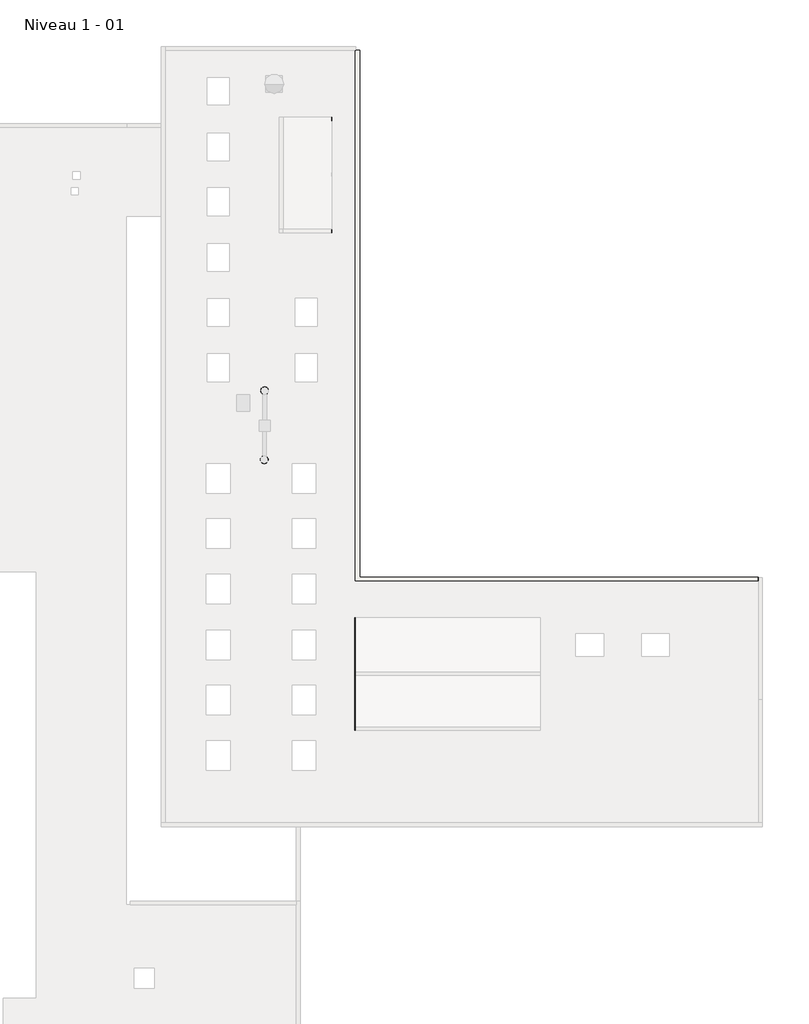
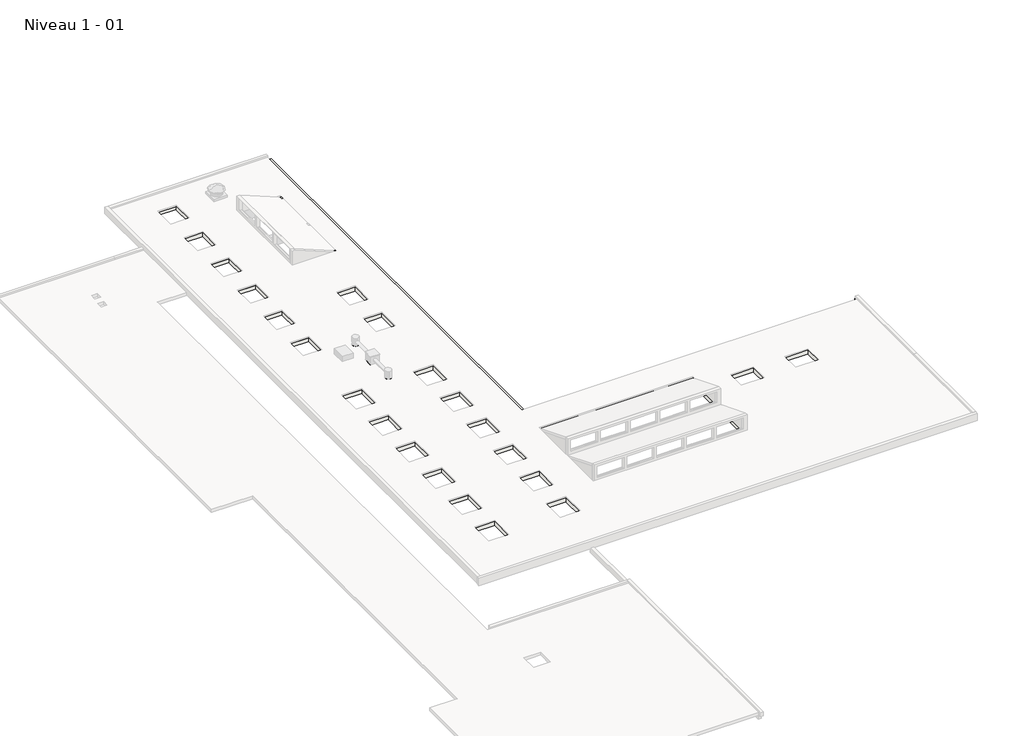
# One storey, part 2 of 3: 1 slab.
"""IFC4 building model written with IfcOpenShell, lengths in millimetres."""

from ifc_helpers import new_model, si_unit, frame, origin, place, context, project, spatial, polyline, circle_curve, element, save
from ifc_brep_helpers import plane_surface, revolved_surface, advanced_brep

model = new_model("IFC4")

# Units and contexts
model_context = context("Model", 3, world=origin())
ifc_project = project(units=[si_unit("LENGTHUNIT", "METRE", prefix="MILLI")], contexts=[model_context])

# Site, building, storey
site = spatial("IfcSite", under=ifc_project)
building = spatial("IfcBuilding", under=site)
storey = spatial("IfcBuildingStorey", under=building, Name="Niveau 1 - 01", Elevation=3953.3082742)

# Slab
placement = place(None, origin())
element("IfcSlab", 1, ObjectType="Dalle béton 250mm", at=placement, inside=storey, context=model_context, shape_type="AdvancedBrep", body=[
    advanced_brep(
    [(-3952.669714, -34309.054307, 3703.3082742), (-36143.9891745, -34309.054307, 3703.3082742), (-36143.9891745, 7622.6789506, 3703.3082742), (-25803.9891728, 7622.6789506, 3703.3082742), (-25593.9891731, 7622.6789506, 3703.3082742), (-25593.9891731, -1968.7412456, 3703.3082742), (-25593.9891731, -20511.25307, 3703.3082742), (-25593.9891731, -20966.25307, 3703.3082742), (-6831.0863322, -20966.25307, 3703.3082742), (-3952.669714, -20966.25307, 3703.3082742), (-33869.0462334, -10357.822974, 3703.3082742), (-32669.0462334, -10357.822974, 3703.3082742), (-32669.0462334, -8857.822974, 3703.3082742), (-33869.0462334, -8857.822974, 3703.3082742), (-33869.0462334, -5852.822974, 3703.3082742), (-33869.0462334, -7352.822974, 3703.3082742), (-32669.0462334, -7352.822974, 3703.3082742), (-32669.0462334, -5852.822974, 3703.3082742), (-32669.0462334, -2876.8912553, 3703.3082742), (-33869.0462334, -2876.8912553, 3703.3082742), (-33869.0462334, -4376.8912553, 3703.3082742), (-32669.0462334, -4376.8912553, 3703.3082742), (-33869.0462334, -1347.3571147, 3703.3082742), (-32669.0462334, -1347.3571147, 3703.3082742), (-32669.0462334, 152.6428853, 3703.3082742), (-33869.0462334, 152.6428853, 3703.3082742), (-33869.0462334, 1622.177026, 3703.3082742), (-32669.0462334, 1622.177026, 3703.3082742), (-32669.0462334, 3122.177026, 3703.3082742), (-33869.0462334, 3122.177026, 3703.3082742), (-33869.0462334, 4671.7111666, 3703.3082742), (-32669.0462334, 4671.7111666, 3703.3082742), (-32669.0462334, 6171.7111666, 3703.3082742), (-33869.0462334, 6171.7111666, 3703.3082742), (-8792.5797272, -24053.822974, 3703.3082742), (-10292.5797272, -24053.822974, 3703.3082742), (-10292.5797272, -25253.822974, 3703.3082742), (-8792.5797272, -25253.822974, 3703.3082742), (-12351.5513349, -24053.822974, 3703.3082742), (-13851.5513349, -24053.822974, 3703.3082742), (-13851.5513349, -25253.822974, 3703.3082742), (-12351.5513349, -25253.822974, 3703.3082742), (-33919.0462334, -16407.822974, 3703.3082742), (-32619.0462334, -16407.822974, 3703.3082742), (-32619.0462334, -14807.822974, 3703.3082742), (-33919.0462334, -14807.822974, 3703.3082742), (-33919.0462334, -19407.822974, 3703.3082742), (-32619.0462334, -19407.822974, 3703.3082742), (-32619.0462334, -17807.822974, 3703.3082742), (-33919.0462334, -17807.822974, 3703.3082742), (-33919.0462334, -22427.822974, 3703.3082742), (-32619.0462334, -22427.822974, 3703.3082742), (-32619.0462334, -21061.25307, 3703.3082742), (-32619.0462334, -20827.822974, 3703.3082742), (-33919.0462334, -20827.822974, 3703.3082742), (-33919.0462334, -21061.25307, 3703.3082742), (-33919.0462334, -25447.822974, 3703.3082742), (-32619.0462334, -25447.822974, 3703.3082742), (-32619.0462334, -23847.822974, 3703.3082742), (-33919.0462334, -23847.822974, 3703.3082742), (-33919.0462334, -28437.822974, 3703.3082742), (-32619.0462334, -28437.822974, 3703.3082742), (-32619.0462334, -26837.822974, 3703.3082742), (-33919.0462334, -26837.822974, 3703.3082742), (-33919.0462334, -31447.822974, 3703.3082742), (-32619.0462334, -31447.822974, 3703.3082742), (-32619.0462334, -29847.822974, 3703.3082742), (-33919.0462334, -29847.822974, 3703.3082742), (-29260.9246741, -31447.822974, 3703.3082742), (-27960.9246741, -31447.822974, 3703.3082742), (-27960.9246741, -29847.822974, 3703.3082742), (-29260.9246741, -29847.822974, 3703.3082742), (-27960.9246741, -26837.822974, 3703.3082742), (-29260.9246741, -26837.822974, 3703.3082742), (-29260.9246741, -28437.822974, 3703.3082742), (-27960.9246741, -28437.822974, 3703.3082742), (-29260.9246741, -25447.822974, 3703.3082742), (-27960.9246741, -25447.822974, 3703.3082742), (-27960.9246741, -23847.822974, 3703.3082742), (-29260.9246741, -23847.822974, 3703.3082742), (-29260.9246741, -19407.822974, 3703.3082742), (-27960.9246741, -19407.822974, 3703.3082742), (-27960.9246741, -17807.822974, 3703.3082742), (-29260.9246741, -17807.822974, 3703.3082742), (-29260.9246741, -16407.822974, 3703.3082742), (-27960.9246741, -16407.822974, 3703.3082742), (-27960.9246741, -14807.822974, 3703.3082742), (-29260.9246741, -14807.822974, 3703.3082742), (-29098.4246741, -7360.322974, 3703.3082742), (-27883.4246741, -7360.322974, 3703.3082742), (-27883.4246741, -5845.322974, 3703.3082742), (-29098.4246741, -5845.322974, 3703.3082742), (-29098.4246741, -10365.322974, 3703.3082742), (-27883.4246741, -10365.322974, 3703.3082742), (-27883.4246741, -8850.322974, 3703.3082742), (-29098.4246741, -8850.322974, 3703.3082742), (-30507.5797272, 5770.177026, 3703.3082742), (-29907.5797272, 5770.177026, 3703.3082742), (-32168.9891696, -11174.5661034, 3703.3082742), (-32168.9891696, -11879.0543063, 3703.3082742), (-31656.3128908, -11879.0543063, 3703.3082742), (-31656.3128908, -11174.5661034, 3703.3082742), (-30936.1289842, -12547.5222495, 3703.3082742), (-30936.1289842, -12947.5222494, 3703.3082742), (-30546.1289842, -12947.5222494, 3703.3082742), (-30546.1289842, -12547.5222495, 3703.3082742), (-30907.5797272, -14595.822974, 3703.3082742), (-30627.5797272, -14595.822974, 3703.3082742), (-30888.5797272, -10853.822974, 3703.3082742), (-30608.5797272, -10853.822974, 3703.3082742), (-15997.6697002, -29088.571453, 3703.3082742), (-15997.6697002, -29087.792702, 3703.3082742), (-15997.6697002, -26203.571453, 3703.3082742), (-15997.6697002, -26003.571453, 3703.3082742), (-15997.6697002, -23238.571453, 3703.3082742), (-25593.9891728, -23238.571453, 3703.3082742), (-25593.9891728, -26003.571453, 3703.3082742), (-25593.9891728, -26203.571453, 3703.3082742), (-25593.9891728, -29087.792702, 3703.3082742), (-25593.9891728, -29088.571453, 3703.3082742), (-27960.9246741, -20827.822974, 3703.3082742), (-29260.9246741, -20827.822974, 3703.3082742), (-29260.9246741, -21061.25307, 3703.3082742), (-29260.9246741, -22427.822974, 3703.3082742), (-27960.9246741, -22427.822974, 3703.3082742), (-27960.9246741, -21061.25307, 3703.3082742), (-26893.5797272, 3782.177026, 3703.3082742), (-26901.4705775, 3782.177026, 3703.3082742), (-29743.5797272, 3782.177026, 3703.3082742), (-29743.5797272, 3777.177026, 3703.3082742), (-29743.5797272, 977.177026, 3703.3082742), (-29743.5797272, 777.177026, 3703.3082742), (-29743.5797272, -2092.822974, 3703.3082742), (-26901.4705775, -2092.822974, 3703.3082742), (-26893.5797272, -2092.822974, 3703.3082742), (-26893.5797272, 777.177026, 3703.3082742), (-26893.5797272, 977.177026, 3703.3082742), (-26893.5797272, 3777.177026, 3703.3082742), (-36143.9891745, -34309.054307, 3953.3082742), (-3952.669714, -34309.054307, 3953.3082742), (-3952.669714, -20966.25307, 3953.3082742), (-3963.9891777, -20966.25307, 3953.3082742), (-3963.9891777, -21206.25307, 3953.3082742), (-25843.9891731, -21206.25307, 3953.3082742), (-25843.9891731, 7622.6789506, 3953.3082742), (-36143.9891745, 7622.6789506, 3953.3082742), (-32669.0462334, -10357.822974, 3953.3082742), (-33869.0462334, -10357.822974, 3953.3082742), (-33869.0462334, -8857.822974, 3953.3082742), (-32669.0462334, -8857.822974, 3953.3082742), (-33869.0462334, -7352.822974, 3953.3082742), (-33869.0462334, -5852.822974, 3953.3082742), (-32669.0462334, -5852.822974, 3953.3082742), (-32669.0462334, -7352.822974, 3953.3082742), (-33869.0462334, -2876.8912553, 3953.3082742), (-32669.0462334, -2876.8912553, 3953.3082742), (-32669.0462334, -4376.8912553, 3953.3082742), (-33869.0462334, -4376.8912553, 3953.3082742), (-32669.0462334, -1347.3571147, 3953.3082742), (-33869.0462334, -1347.3571147, 3953.3082742), (-33869.0462334, 152.6428853, 3953.3082742), (-32669.0462334, 152.6428853, 3953.3082742), (-32669.0462334, 1622.177026, 3953.3082742), (-33869.0462334, 1622.177026, 3953.3082742), (-33869.0462334, 3122.177026, 3953.3082742), (-32669.0462334, 3122.177026, 3953.3082742), (-32669.0462334, 4671.7111666, 3953.3082742), (-33869.0462334, 4671.7111666, 3953.3082742), (-33869.0462334, 6121.7111666, 3953.3082742), (-33869.0462334, 6171.7111666, 3953.3082742), (-32669.0462334, 6171.7111666, 3953.3082742), (-32669.0462334, 6121.7111666, 3953.3082742), (-10292.5797272, -24053.822974, 3953.3082742), (-8792.5797272, -24053.822974, 3953.3082742), (-8792.5797272, -25253.822974, 3953.3082742), (-10292.5797272, -25253.822974, 3953.3082742), (-13851.5513349, -24053.822974, 3953.3082742), (-12351.5513349, -24053.822974, 3953.3082742), (-12351.5513349, -25253.822974, 3953.3082742), (-13851.5513349, -25253.822974, 3953.3082742), (-15997.6697002, -29088.571453, 3953.3082742), (-25593.9891728, -29088.571453, 3953.3082742), (-25593.9891728, -29087.792702, 3953.3082742), (-25593.9891728, -26203.571453, 3953.3082742), (-25593.9891728, -26003.571453, 3953.3082742), (-25593.9891728, -23578.2235942, 3953.3082742), (-25793.9891728, -23578.2235942, 3953.3082742), (-25793.9891728, -23177.8035198, 3953.3082742), (-15797.6697002, -23177.8035198, 3953.3082742), (-15797.6697002, -23578.2235942, 3953.3082742), (-15997.6697002, -23578.2235942, 3953.3082742), (-15997.6697002, -26003.571453, 3953.3082742), (-15997.6697002, -26203.571453, 3953.3082742), (-15997.6697002, -29087.792702, 3953.3082742), (-32619.0462334, -16407.822974, 3953.3082742), (-33919.0462334, -16407.822974, 3953.3082742), (-33919.0462334, -14807.822974, 3953.3082742), (-32619.0462334, -14807.822974, 3953.3082742), (-32619.0462334, -19407.822974, 3953.3082742), (-33919.0462334, -19407.822974, 3953.3082742), (-33919.0462334, -17807.822974, 3953.3082742), (-32619.0462334, -17807.822974, 3953.3082742), (-32619.0462334, -22427.822974, 3953.3082742), (-33919.0462334, -22427.822974, 3953.3082742), (-33919.0462334, -20827.822974, 3953.3082742), (-32619.0462334, -20827.822974, 3953.3082742), (-32619.0462334, -25447.822974, 3953.3082742), (-33919.0462334, -25447.822974, 3953.3082742), (-33919.0462334, -23847.822974, 3953.3082742), (-32619.0462334, -23847.822974, 3953.3082742), (-32619.0462334, -28437.822974, 3953.3082742), (-33919.0462334, -28437.822974, 3953.3082742), (-33919.0462334, -26837.822974, 3953.3082742), (-32619.0462334, -26837.822974, 3953.3082742), (-32619.0462334, -31447.822974, 3953.3082742), (-33919.0462334, -31447.822974, 3953.3082742), (-33919.0462334, -29847.822974, 3953.3082742), (-32619.0462334, -29847.822974, 3953.3082742), (-27960.9246741, -31447.822974, 3953.3082742), (-29260.9246741, -31447.822974, 3953.3082742), (-29260.9246741, -29847.822974, 3953.3082742), (-27960.9246741, -29847.822974, 3953.3082742), (-29260.9246741, -26837.822974, 3953.3082742), (-27960.9246741, -26837.822974, 3953.3082742), (-27960.9246741, -28437.822974, 3953.3082742), (-29260.9246741, -28437.822974, 3953.3082742), (-27960.9246741, -25447.822974, 3953.3082742), (-29260.9246741, -25447.822974, 3953.3082742), (-29260.9246741, -23847.822974, 3953.3082742), (-27960.9246741, -23847.822974, 3953.3082742), (-29260.9246741, -20827.822974, 3953.3082742), (-27960.9246741, -20827.822974, 3953.3082742), (-27960.9246741, -22427.822974, 3953.3082742), (-29260.9246741, -22427.822974, 3953.3082742), (-27960.9246741, -19407.822974, 3953.3082742), (-29260.9246741, -19407.822974, 3953.3082742), (-29260.9246741, -17807.822974, 3953.3082742), (-27960.9246741, -17807.822974, 3953.3082742), (-27960.9246741, -16407.822974, 3953.3082742), (-29260.9246741, -16407.822974, 3953.3082742), (-29260.9246741, -14807.822974, 3953.3082742), (-27960.9246741, -14807.822974, 3953.3082742), (-27883.4246741, -7360.322974, 3953.3082742), (-29098.4246741, -7360.322974, 3953.3082742), (-29098.4246741, -5845.322974, 3953.3082742), (-27883.4246741, -5845.322974, 3953.3082742), (-27883.4246741, -10365.322974, 3953.3082742), (-29098.4246741, -10365.322974, 3953.3082742), (-29098.4246741, -8850.322974, 3953.3082742), (-27883.4246741, -8850.322974, 3953.3082742), (-29907.5797272, 5770.177026, 3953.3082742), (-30507.5797272, 5770.177026, 3953.3082742), (-32168.9891696, -11879.0543063, 3953.3082742), (-32168.9891696, -11174.5661034, 3953.3082742), (-31656.3128908, -11174.5661034, 3953.3082742), (-31656.3128908, -11879.0543063, 3953.3082742), (-30936.1289842, -12947.5222494, 3953.3082742), (-30936.1289842, -12547.5222495, 3953.3082742), (-30546.1289842, -12547.5222495, 3953.3082742), (-30546.1289842, -12947.5222494, 3953.3082742), (-30627.5797272, -14595.822974, 3953.3082742), (-30907.5797272, -14595.822974, 3953.3082742), (-30608.5797272, -10853.822974, 3953.3082742), (-30888.5797272, -10853.822974, 3953.3082742), (-29743.5797272, 3782.177026, 3953.3082742), (-27520.2422908, 3782.177026, 3953.3082742), (-27119.8222164, 3782.177026, 3953.3082742), (-26893.5797272, 3782.177026, 3953.3082742), (-26893.5797272, 3777.177026, 3953.3082742), (-26893.5797272, 977.177026, 3953.3082742), (-26893.5797272, 777.177026, 3953.3082742), (-26893.5797272, -2092.822974, 3953.3082742), (-27119.8222164, -2092.822974, 3953.3082742), (-27520.2422908, -2092.822974, 3953.3082742), (-29743.5797272, -2092.822974, 3953.3082742), (-29743.5797272, 777.177026, 3953.3082742), (-29743.5797272, 977.177026, 3953.3082742), (-29743.5797272, 3777.177026, 3953.3082742), (-25843.9891731, 7622.6789506, 3871.8727639), (-25593.9891731, 7622.6789506, 3871.8727639), (-25593.9891731, -20511.25307, 3871.8727639), (-25593.9891731, -20966.25307, 3871.8727639), (-6831.0863322, -20966.25307, 3871.8727639), (-3963.9891777, -20966.25307, 3871.8727639), (-3952.669714, -20966.25307, 3871.8727639), (-15997.6697002, -23238.571453, 3816.0799015), (-25593.9891728, -23238.571453, 3816.0799015), (-15797.6697002, -23168.571453, 3787.7980657), (-25793.9891728, -23168.571453, 3787.7980657), (-25793.9891728, -23168.571453, 3949.5782771), (-15797.6697002, -23168.571453, 3949.5782771), (-26893.5797272, 3782.177026, 3861.9003752), (-26893.5797272, -2092.822974, 3861.9003752), (-32619.0462334, -20827.822974, 3871.8727639), (-33919.0462334, -20827.822974, 3871.8727639), (-27960.9246741, -20827.822974, 3871.8727639), (-29260.9246741, -20827.822974, 3871.8727639), (-3963.9891777, -21206.25307, 3871.8727639), (-25843.9891731, -21206.25307, 3871.8727639)],
    [
        (0, 1),
        (1, 2),
        (2, 3),
        (3, 4),
        (4, 5),
        (5, 6),
        (6, 7),
        (7, 8),
        (8, 9),
        (9, 0),
        (10, 11),
        (11, 12),
        (12, 13),
        (13, 10),
        (14, 15),
        (15, 16),
        (16, 17),
        (17, 14),
        (18, 19),
        (19, 20),
        (20, 21),
        (21, 18),
        (22, 23),
        (23, 24),
        (24, 25),
        (25, 22),
        (26, 27),
        (27, 28),
        (28, 29),
        (29, 26),
        (30, 31),
        (31, 32),
        (32, 33),
        (33, 30),
        (34, 35),
        (35, 36),
        (36, 37),
        (37, 34),
        (38, 39),
        (39, 40),
        (40, 41),
        (41, 38),
        (42, 43),
        (43, 44),
        (44, 45),
        (45, 42),
        (46, 47),
        (47, 48),
        (48, 49),
        (49, 46),
        (50, 51),
        (51, 52),
        (52, 53),
        (53, 54),
        (54, 55),
        (55, 50),
        (56, 57),
        (57, 58),
        (58, 59),
        (59, 56),
        (60, 61),
        (61, 62),
        (62, 63),
        (63, 60),
        (64, 65),
        (65, 66),
        (66, 67),
        (67, 64),
        (68, 69),
        (69, 70),
        (70, 71),
        (71, 68),
        (72, 73),
        (73, 74),
        (74, 75),
        (75, 72),
        (76, 77),
        (77, 78),
        (78, 79),
        (79, 76),
        (80, 81),
        (81, 82),
        (82, 83),
        (83, 80),
        (84, 85),
        (85, 86),
        (86, 87),
        (87, 84),
        (88, 89),
        (89, 90),
        (90, 91),
        (91, 88),
        (92, 93),
        (93, 94),
        (94, 95),
        (95, 92),
        (96, 97, circle_curve(frame((-30207.5797272, 5770.177026, 3703.3082742), z_axis=(0.0, 0.0, 1.0), x_axis=(1.0, 0.0, 0.0)), 300.0)),
        (97, 96, circle_curve(frame((-30207.5797272, 5770.177026, 3703.3082742), z_axis=(0.0, 0.0, 1.0), x_axis=(1.0, 0.0, 0.0)), 300.0)),
        (98, 99),
        (99, 100),
        (100, 101),
        (101, 98),
        (102, 103),
        (103, 104),
        (104, 105),
        (105, 102),
        (106, 107, circle_curve(frame((-30767.5797272, -14595.822974, 3703.3082742), z_axis=(0.0, 0.0, 1.0), x_axis=(1.0, 0.0, 0.0)), 140.0)),
        (107, 106, circle_curve(frame((-30767.5797272, -14595.822974, 3703.3082742), z_axis=(0.0, 0.0, 1.0), x_axis=(1.0, 0.0, 0.0)), 140.0)),
        (108, 109, circle_curve(frame((-30748.5797272, -10853.822974, 3703.3082742), z_axis=(0.0, 0.0, 1.0), x_axis=(1.0, 0.0, 0.0)), 140.0)),
        (109, 108, circle_curve(frame((-30748.5797272, -10853.822974, 3703.3082742), z_axis=(0.0, 0.0, 1.0), x_axis=(1.0, 0.0, 0.0)), 140.0)),
        (110, 111),
        (111, 112),
        (112, 113),
        (113, 114),
        (114, 115),
        (115, 116),
        (116, 117),
        (117, 118),
        (118, 119),
        (119, 110),
        (120, 121),
        (121, 122),
        (122, 123),
        (123, 124),
        (124, 125),
        (125, 120),
        (126, 127),
        (127, 128),
        (128, 129),
        (129, 130),
        (130, 131),
        (131, 132),
        (132, 133),
        (133, 134),
        (134, 135),
        (135, 136),
        (136, 137),
        (137, 126),
        (138, 139),
        (139, 140),
        (140, 141),
        (141, 142),
        (142, 143),
        (143, 144),
        (144, 145),
        (145, 138),
        (146, 147),
        (147, 148),
        (148, 149),
        (149, 146),
        (150, 151),
        (151, 152),
        (152, 153),
        (153, 150),
        (154, 155),
        (155, 156),
        (156, 157),
        (157, 154),
        (158, 159),
        (159, 160),
        (160, 161),
        (161, 158),
        (162, 163),
        (163, 164),
        (164, 165),
        (165, 162),
        (166, 167),
        (167, 168),
        (168, 169),
        (169, 170),
        (170, 171),
        (171, 166),
        (172, 173),
        (173, 174),
        (174, 175),
        (175, 172),
        (176, 177),
        (177, 178),
        (178, 179),
        (179, 176),
        (180, 181),
        (181, 182),
        (182, 183),
        (183, 184),
        (184, 185),
        (185, 186),
        (186, 187),
        (187, 188),
        (188, 189),
        (189, 190),
        (190, 191),
        (191, 192),
        (192, 193),
        (193, 180),
        (194, 195),
        (195, 196),
        (196, 197),
        (197, 194),
        (198, 199),
        (199, 200),
        (200, 201),
        (201, 198),
        (202, 203),
        (203, 204),
        (204, 205),
        (205, 202),
        (206, 207),
        (207, 208),
        (208, 209),
        (209, 206),
        (210, 211),
        (211, 212),
        (212, 213),
        (213, 210),
        (214, 215),
        (215, 216),
        (216, 217),
        (217, 214),
        (218, 219),
        (219, 220),
        (220, 221),
        (221, 218),
        (222, 223),
        (223, 224),
        (224, 225),
        (225, 222),
        (226, 227),
        (227, 228),
        (228, 229),
        (229, 226),
        (230, 231),
        (231, 232),
        (232, 233),
        (233, 230),
        (234, 235),
        (235, 236),
        (236, 237),
        (237, 234),
        (238, 239),
        (239, 240),
        (240, 241),
        (241, 238),
        (242, 243),
        (243, 244),
        (244, 245),
        (245, 242),
        (246, 247),
        (247, 248),
        (248, 249),
        (249, 246),
        (250, 251, circle_curve(frame((-30207.5797272, 5770.177026, 3953.3082742), z_axis=(0.0, 0.0, -1.0), x_axis=(1.0, 0.0, 0.0)), 300.0)),
        (251, 250, circle_curve(frame((-30207.5797272, 5770.177026, 3953.3082742), z_axis=(0.0, 0.0, -1.0), x_axis=(1.0, 0.0, 0.0)), 300.0)),
        (252, 253),
        (253, 254),
        (254, 255),
        (255, 252),
        (256, 257),
        (257, 258),
        (258, 259),
        (259, 256),
        (260, 261, circle_curve(frame((-30767.5797272, -14595.822974, 3953.3082742), z_axis=(0.0, 0.0, -1.0), x_axis=(1.0, 0.0, 0.0)), 140.0)),
        (261, 260, circle_curve(frame((-30767.5797272, -14595.822974, 3953.3082742), z_axis=(0.0, 0.0, -1.0), x_axis=(1.0, 0.0, 0.0)), 140.0)),
        (262, 263, circle_curve(frame((-30748.5797272, -10853.822974, 3953.3082742), z_axis=(0.0, 0.0, -1.0), x_axis=(1.0, 0.0, 0.0)), 140.0)),
        (263, 262, circle_curve(frame((-30748.5797272, -10853.822974, 3953.3082742), z_axis=(0.0, 0.0, -1.0), x_axis=(1.0, 0.0, 0.0)), 140.0)),
        (264, 265),
        (265, 266),
        (266, 267),
        (267, 268),
        (268, 269),
        (269, 270),
        (270, 271),
        (271, 272),
        (272, 273),
        (273, 274),
        (274, 275),
        (275, 276),
        (276, 277),
        (277, 264),
        (0, 139),
        (138, 1),
        (145, 2),
        (144, 278),
        (278, 279),
        (279, 4),
        (279, 280),
        (280, 281),
        (281, 7),
        (281, 282),
        (282, 283),
        (283, 141),
        (140, 284),
        (284, 9),
        (110, 180),
        (190, 285),
        (285, 114),
        (115, 286),
        (286, 185),
        (181, 119),
        (285, 286),
        (287, 288),
        (288, 186),
        (189, 287),
        (289, 290),
        (290, 188),
        (187, 289),
        (290, 287),
        (288, 289),
        (10, 147),
        (146, 11),
        (149, 12),
        (148, 13),
        (14, 151),
        (150, 15),
        (153, 16),
        (152, 17),
        (18, 155),
        (154, 19),
        (157, 20),
        (156, 21),
        (22, 159),
        (158, 23),
        (161, 24),
        (160, 25),
        (26, 163),
        (162, 27),
        (165, 28),
        (164, 29),
        (30, 167),
        (166, 31),
        (170, 32),
        (169, 33),
        (34, 173),
        (172, 35),
        (175, 36),
        (174, 37),
        (38, 177),
        (176, 39),
        (179, 40),
        (178, 41),
        (126, 291),
        (291, 267),
        (264, 128),
        (274, 132),
        (271, 292),
        (292, 134),
        (42, 195),
        (194, 43),
        (197, 44),
        (196, 45),
        (46, 199),
        (198, 47),
        (201, 48),
        (200, 49),
        (50, 203),
        (202, 51),
        (205, 293),
        (293, 53),
        (204, 294),
        (294, 54),
        (56, 207),
        (206, 57),
        (209, 58),
        (208, 59),
        (60, 211),
        (210, 61),
        (213, 62),
        (212, 63),
        (64, 215),
        (214, 65),
        (217, 66),
        (216, 67),
        (68, 219),
        (218, 69),
        (221, 70),
        (220, 71),
        (72, 223),
        (222, 73),
        (225, 74),
        (224, 75),
        (76, 227),
        (226, 77),
        (229, 78),
        (228, 79),
        (120, 295),
        (295, 231),
        (230, 296),
        (296, 121),
        (233, 123),
        (232, 124),
        (80, 235),
        (234, 81),
        (237, 82),
        (236, 83),
        (84, 239),
        (238, 85),
        (241, 86),
        (240, 87),
        (88, 243),
        (242, 89),
        (245, 90),
        (244, 91),
        (92, 247),
        (246, 93),
        (249, 94),
        (248, 95),
        (96, 251),
        (250, 97),
        (98, 253),
        (252, 99),
        (255, 100),
        (254, 101),
        (102, 257),
        (256, 103),
        (259, 104),
        (258, 105),
        (106, 261),
        (260, 107),
        (108, 263),
        (262, 109),
        (297, 283),
        (278, 298),
        (298, 297),
        (143, 298),
        (142, 297),
    ],
    [
        plane_surface(frame((-36143.9891745, -34309.054307, 3703.3082742), z_axis=(0.0, 0.0, -1.0), x_axis=(-1.0, 0.0, 0.0))),
        plane_surface(frame((-36143.9891745, -34309.054307, 3953.3082742), z_axis=(0.0, 0.0, 1.0), x_axis=(1.0, 0.0, 0.0))),
        plane_surface(frame((-3952.669714, -34309.054307, 3703.3082742), z_axis=(0.0, -1.0, 0.0), x_axis=(0.0, 0.0, 1.0))),
        plane_surface(frame((-36143.9891745, -34309.054307, 3703.3082742), z_axis=(-1.0, 0.0, 0.0), x_axis=(0.0, 0.0, 1.0))),
        plane_surface(frame((-36143.9891745, 7622.6789506, 3703.3082742), z_axis=(0.0, 1.0, 0.0), x_axis=(0.0, 0.0, 1.0))),
        plane_surface(frame((-25593.9891731, 7622.6789506, 3703.3082742), z_axis=(1.0, 0.0, 0.0), x_axis=(0.0, 0.0, 1.0))),
        plane_surface(frame((-25593.9891731, -20966.25307, 3703.3082742), z_axis=(0.0, 1.0, 0.0), x_axis=(0.0, 0.0, 1.0))),
        plane_surface(frame((-3952.669714, -20966.25307, 3703.3082742), z_axis=(1.0, 0.0, 0.0), x_axis=(0.0, 0.0, 1.0))),
        plane_surface(frame((-15997.6697002, -29088.571453, 3703.3082742), z_axis=(-1.0, 0.0, 0.0), x_axis=(0.0, 0.0, 1.0))),
        plane_surface(frame((-25593.9891728, -23238.571453, 3703.3082742), z_axis=(1.0, 0.0, 0.0), x_axis=(0.0, 0.0, 1.0))),
        plane_surface(frame((-25593.9891728, -29088.571453, 3703.3082742), z_axis=(0.0, 1.0, 0.0), x_axis=(0.0, 0.0, 1.0))),
        plane_surface(frame((-15997.6697002, -23238.571453, 3703.3082742), z_axis=(0.0, -1.0, 0.0), x_axis=(0.0, 0.0, 1.0))),
        plane_surface(frame((-20789.7946692, -21738.571453, 3210.0405628), z_axis=(0.0, 0.3746065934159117, 0.9271838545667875), x_axis=(0.0, -0.9271838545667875, 0.3746065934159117))),
        plane_surface(frame((-20789.7946692, -21738.571453, 3371.8207742), z_axis=(0.0, -0.3746065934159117, -0.9271838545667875), x_axis=(0.0, 0.9271838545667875, -0.3746065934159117))),
        plane_surface(frame((-15797.6697002, -23168.571453, 3787.7980657), z_axis=(-1.0, 0.0, 0.0), x_axis=(0.0, 0.0, 1.0))),
        plane_surface(frame((-25793.9891728, -26098.571453, 4971.5949074), z_axis=(1.0, 0.0, 0.0), x_axis=(0.0, 0.0, 1.0))),
        plane_surface(frame((-25793.9891728, -23168.571453, 3787.7980657), z_axis=(0.0, -1.0, 0.0), x_axis=(0.0, 0.0, 1.0))),
        plane_surface(frame((-33869.0462334, -10357.822974, 3703.3082742), z_axis=(0.0, 1.0, 0.0), x_axis=(0.0, 0.0, 1.0))),
        plane_surface(frame((-32669.0462334, -10357.822974, 3703.3082742), z_axis=(-1.0, 0.0, 0.0), x_axis=(0.0, 0.0, 1.0))),
        plane_surface(frame((-32669.0462334, -8857.822974, 3703.3082742), z_axis=(0.0, -1.0, 0.0), x_axis=(0.0, 0.0, 1.0))),
        plane_surface(frame((-33869.0462334, -8857.822974, 3703.3082742), z_axis=(1.0, 0.0, 0.0), x_axis=(0.0, 0.0, 1.0))),
        plane_surface(frame((-33869.0462334, -5852.822974, 3703.3082742), z_axis=(1.0, 0.0, 0.0), x_axis=(0.0, 0.0, 1.0))),
        plane_surface(frame((-33869.0462334, -7352.822974, 3703.3082742), z_axis=(0.0, 1.0, 0.0), x_axis=(0.0, 0.0, 1.0))),
        plane_surface(frame((-32669.0462334, -7352.822974, 3703.3082742), z_axis=(-1.0, 0.0, 0.0), x_axis=(0.0, 0.0, 1.0))),
        plane_surface(frame((-32669.0462334, -5852.822974, 3703.3082742), z_axis=(0.0, -1.0, 0.0), x_axis=(0.0, 0.0, 1.0))),
        plane_surface(frame((-32669.0462334, -2876.8912553, 3703.3082742), z_axis=(0.0, -1.0, 0.0), x_axis=(0.0, 0.0, 1.0))),
        plane_surface(frame((-33869.0462334, -2876.8912553, 3703.3082742), z_axis=(1.0, 0.0, 0.0), x_axis=(0.0, 0.0, 1.0))),
        plane_surface(frame((-33869.0462334, -4376.8912553, 3703.3082742), z_axis=(0.0, 1.0, 0.0), x_axis=(0.0, 0.0, 1.0))),
        plane_surface(frame((-32669.0462334, -4376.8912553, 3703.3082742), z_axis=(-1.0, 0.0, 0.0), x_axis=(0.0, 0.0, 1.0))),
        plane_surface(frame((-33869.0462334, -1347.3571147, 3703.3082742), z_axis=(0.0, 1.0, 0.0), x_axis=(0.0, 0.0, 1.0))),
        plane_surface(frame((-32669.0462334, -1347.3571147, 3703.3082742), z_axis=(-1.0, 0.0, 0.0), x_axis=(0.0, 0.0, 1.0))),
        plane_surface(frame((-32669.0462334, 152.6428853, 3703.3082742), z_axis=(0.0, -1.0, 0.0), x_axis=(0.0, 0.0, 1.0))),
        plane_surface(frame((-33869.0462334, 152.6428853, 3703.3082742), z_axis=(1.0, 0.0, 0.0), x_axis=(0.0, 0.0, 1.0))),
        plane_surface(frame((-33869.0462334, 1622.177026, 3703.3082742), z_axis=(0.0, 1.0, 0.0), x_axis=(0.0, 0.0, 1.0))),
        plane_surface(frame((-32669.0462334, 1622.177026, 3703.3082742), z_axis=(-1.0, 0.0, 0.0), x_axis=(0.0, 0.0, 1.0))),
        plane_surface(frame((-32669.0462334, 3122.177026, 3703.3082742), z_axis=(0.0, -1.0, 0.0), x_axis=(0.0, 0.0, 1.0))),
        plane_surface(frame((-33869.0462334, 3122.177026, 3703.3082742), z_axis=(1.0, 0.0, 0.0), x_axis=(0.0, 0.0, 1.0))),
        plane_surface(frame((-33869.0462334, 4671.7111666, 3703.3082742), z_axis=(0.0, 1.0, 0.0), x_axis=(0.0, 0.0, 1.0))),
        plane_surface(frame((-32669.0462334, 4671.7111666, 3703.3082742), z_axis=(-1.0, 0.0, 0.0), x_axis=(0.0, 0.0, 1.0))),
        plane_surface(frame((-32669.0462334, 6171.7111666, 3703.3082742), z_axis=(0.0, -1.0, 0.0), x_axis=(0.0, 0.0, 1.0))),
        plane_surface(frame((-33869.0462334, 6171.7111666, 3703.3082742), z_axis=(1.0, 0.0, 0.0), x_axis=(0.0, 0.0, 1.0))),
        plane_surface(frame((-8792.5797272, -24053.822974, 3703.3082742), z_axis=(0.0, -1.0, 0.0), x_axis=(0.0, 0.0, 1.0))),
        plane_surface(frame((-10292.5797272, -24053.822974, 3703.3082742), z_axis=(1.0, 0.0, 0.0), x_axis=(0.0, 0.0, 1.0))),
        plane_surface(frame((-10292.5797272, -25253.822974, 3703.3082742), z_axis=(0.0, 1.0, 0.0), x_axis=(0.0, 0.0, 1.0))),
        plane_surface(frame((-8792.5797272, -25253.822974, 3703.3082742), z_axis=(-1.0, 0.0, 0.0), x_axis=(0.0, 0.0, 1.0))),
        plane_surface(frame((-12351.5513349, -24053.822974, 3703.3082742), z_axis=(0.0, -1.0, 0.0), x_axis=(0.0, 0.0, 1.0))),
        plane_surface(frame((-13851.5513349, -24053.822974, 3703.3082742), z_axis=(1.0, 0.0, 0.0), x_axis=(0.0, 0.0, 1.0))),
        plane_surface(frame((-13851.5513349, -25253.822974, 3703.3082742), z_axis=(0.0, 1.0, 0.0), x_axis=(0.0, 0.0, 1.0))),
        plane_surface(frame((-12351.5513349, -25253.822974, 3703.3082742), z_axis=(-1.0, 0.0, 0.0), x_axis=(0.0, 0.0, 1.0))),
        plane_surface(frame((-26893.5797272, 3782.177026, 3703.3082742), z_axis=(0.0, -1.0, 0.0), x_axis=(0.0, 0.0, 1.0))),
        plane_surface(frame((-29743.5797272, 3782.177026, 3703.3082742), z_axis=(1.0, 0.0, 0.0), x_axis=(0.0, 0.0, 1.0))),
        plane_surface(frame((-29743.5797272, -2092.822974, 3703.3082742), z_axis=(0.0, 1.0, 0.0), x_axis=(0.0, 0.0, 1.0))),
        plane_surface(frame((-26893.5797272, -2092.822974, 3703.3082742), z_axis=(-1.0, 0.0, 0.0), x_axis=(0.0, 0.0, 1.0))),
        plane_surface(frame((-33919.0462334, -16407.822974, 3703.3082742), z_axis=(0.0, 1.0, 0.0), x_axis=(0.0, 0.0, 1.0))),
        plane_surface(frame((-32619.0462334, -16407.822974, 3703.3082742), z_axis=(-1.0, 0.0, 0.0), x_axis=(0.0, 0.0, 1.0))),
        plane_surface(frame((-32619.0462334, -14807.822974, 3703.3082742), z_axis=(0.0, -1.0, 0.0), x_axis=(0.0, 0.0, 1.0))),
        plane_surface(frame((-33919.0462334, -14807.822974, 3703.3082742), z_axis=(1.0, 0.0, 0.0), x_axis=(0.0, 0.0, 1.0))),
        plane_surface(frame((-33919.0462334, -19407.822974, 3703.3082742), z_axis=(0.0, 1.0, 0.0), x_axis=(0.0, 0.0, 1.0))),
        plane_surface(frame((-32619.0462334, -19407.822974, 3703.3082742), z_axis=(-1.0, 0.0, 0.0), x_axis=(0.0, 0.0, 1.0))),
        plane_surface(frame((-32619.0462334, -17807.822974, 3703.3082742), z_axis=(0.0, -1.0, 0.0), x_axis=(0.0, 0.0, 1.0))),
        plane_surface(frame((-33919.0462334, -17807.822974, 3703.3082742), z_axis=(1.0, 0.0, 0.0), x_axis=(0.0, 0.0, 1.0))),
        plane_surface(frame((-33919.0462334, -22427.822974, 3703.3082742), z_axis=(0.0, 1.0, 0.0), x_axis=(0.0, 0.0, 1.0))),
        plane_surface(frame((-32619.0462334, -22427.822974, 3703.3082742), z_axis=(-1.0, 0.0, 0.0), x_axis=(0.0, 0.0, 1.0))),
        plane_surface(frame((-32619.0462334, -20827.822974, 3703.3082742), z_axis=(0.0, -1.0, 0.0), x_axis=(0.0, 0.0, 1.0))),
        plane_surface(frame((-33919.0462334, -20827.822974, 3703.3082742), z_axis=(1.0, 0.0, 0.0), x_axis=(0.0, 0.0, 1.0))),
        plane_surface(frame((-33919.0462334, -25447.822974, 3703.3082742), z_axis=(0.0, 1.0, 0.0), x_axis=(0.0, 0.0, 1.0))),
        plane_surface(frame((-32619.0462334, -25447.822974, 3703.3082742), z_axis=(-1.0, 0.0, 0.0), x_axis=(0.0, 0.0, 1.0))),
        plane_surface(frame((-32619.0462334, -23847.822974, 3703.3082742), z_axis=(0.0, -1.0, 0.0), x_axis=(0.0, 0.0, 1.0))),
        plane_surface(frame((-33919.0462334, -23847.822974, 3703.3082742), z_axis=(1.0, 0.0, 0.0), x_axis=(0.0, 0.0, 1.0))),
        plane_surface(frame((-33919.0462334, -28437.822974, 3703.3082742), z_axis=(0.0, 1.0, 0.0), x_axis=(0.0, 0.0, 1.0))),
        plane_surface(frame((-32619.0462334, -28437.822974, 3703.3082742), z_axis=(-1.0, 0.0, 0.0), x_axis=(0.0, 0.0, 1.0))),
        plane_surface(frame((-32619.0462334, -26837.822974, 3703.3082742), z_axis=(0.0, -1.0, 0.0), x_axis=(0.0, 0.0, 1.0))),
        plane_surface(frame((-33919.0462334, -26837.822974, 3703.3082742), z_axis=(1.0, 0.0, 0.0), x_axis=(0.0, 0.0, 1.0))),
        plane_surface(frame((-33919.0462334, -31447.822974, 3703.3082742), z_axis=(0.0, 1.0, 0.0), x_axis=(0.0, 0.0, 1.0))),
        plane_surface(frame((-32619.0462334, -31447.822974, 3703.3082742), z_axis=(-1.0, 0.0, 0.0), x_axis=(0.0, 0.0, 1.0))),
        plane_surface(frame((-32619.0462334, -29847.822974, 3703.3082742), z_axis=(0.0, -1.0, 0.0), x_axis=(0.0, 0.0, 1.0))),
        plane_surface(frame((-33919.0462334, -29847.822974, 3703.3082742), z_axis=(1.0, 0.0, 0.0), x_axis=(0.0, 0.0, 1.0))),
        plane_surface(frame((-29260.9246741, -31447.822974, 3703.3082742), z_axis=(0.0, 1.0, 0.0), x_axis=(0.0, 0.0, 1.0))),
        plane_surface(frame((-27960.9246741, -31447.822974, 3703.3082742), z_axis=(-1.0, 0.0, 0.0), x_axis=(0.0, 0.0, 1.0))),
        plane_surface(frame((-27960.9246741, -29847.822974, 3703.3082742), z_axis=(0.0, -1.0, 0.0), x_axis=(0.0, 0.0, 1.0))),
        plane_surface(frame((-29260.9246741, -29847.822974, 3703.3082742), z_axis=(1.0, 0.0, 0.0), x_axis=(0.0, 0.0, 1.0))),
        plane_surface(frame((-27960.9246741, -26837.822974, 3703.3082742), z_axis=(0.0, -1.0, 0.0), x_axis=(0.0, 0.0, 1.0))),
        plane_surface(frame((-29260.9246741, -26837.822974, 3703.3082742), z_axis=(1.0, 0.0, 0.0), x_axis=(0.0, 0.0, 1.0))),
        plane_surface(frame((-29260.9246741, -28437.822974, 3703.3082742), z_axis=(0.0, 1.0, 0.0), x_axis=(0.0, 0.0, 1.0))),
        plane_surface(frame((-27960.9246741, -28437.822974, 3703.3082742), z_axis=(-1.0, 0.0, 0.0), x_axis=(0.0, 0.0, 1.0))),
        plane_surface(frame((-29260.9246741, -25447.822974, 3703.3082742), z_axis=(0.0, 1.0, 0.0), x_axis=(0.0, 0.0, 1.0))),
        plane_surface(frame((-27960.9246741, -25447.822974, 3703.3082742), z_axis=(-1.0, 0.0, 0.0), x_axis=(0.0, 0.0, 1.0))),
        plane_surface(frame((-27960.9246741, -23847.822974, 3703.3082742), z_axis=(0.0, -1.0, 0.0), x_axis=(0.0, 0.0, 1.0))),
        plane_surface(frame((-29260.9246741, -23847.822974, 3703.3082742), z_axis=(1.0, 0.0, 0.0), x_axis=(0.0, 0.0, 1.0))),
        plane_surface(frame((-27960.9246741, -20827.822974, 3703.3082742), z_axis=(0.0, -1.0, 0.0), x_axis=(0.0, 0.0, 1.0))),
        plane_surface(frame((-29260.9246741, -20827.822974, 3703.3082742), z_axis=(1.0, 0.0, 0.0), x_axis=(0.0, 0.0, 1.0))),
        plane_surface(frame((-29260.9246741, -22427.822974, 3703.3082742), z_axis=(0.0, 1.0, 0.0), x_axis=(0.0, 0.0, 1.0))),
        plane_surface(frame((-27960.9246741, -22427.822974, 3703.3082742), z_axis=(-1.0, 0.0, 0.0), x_axis=(0.0, 0.0, 1.0))),
        plane_surface(frame((-29260.9246741, -19407.822974, 3703.3082742), z_axis=(0.0, 1.0, 0.0), x_axis=(0.0, 0.0, 1.0))),
        plane_surface(frame((-27960.9246741, -19407.822974, 3703.3082742), z_axis=(-1.0, 0.0, 0.0), x_axis=(0.0, 0.0, 1.0))),
        plane_surface(frame((-27960.9246741, -17807.822974, 3703.3082742), z_axis=(0.0, -1.0, 0.0), x_axis=(0.0, 0.0, 1.0))),
        plane_surface(frame((-29260.9246741, -17807.822974, 3703.3082742), z_axis=(1.0, 0.0, 0.0), x_axis=(0.0, 0.0, 1.0))),
        plane_surface(frame((-29260.9246741, -16407.822974, 3703.3082742), z_axis=(0.0, 1.0, 0.0), x_axis=(0.0, 0.0, 1.0))),
        plane_surface(frame((-27960.9246741, -16407.822974, 3703.3082742), z_axis=(-1.0, 0.0, 0.0), x_axis=(0.0, 0.0, 1.0))),
        plane_surface(frame((-27960.9246741, -14807.822974, 3703.3082742), z_axis=(0.0, -1.0, 0.0), x_axis=(0.0, 0.0, 1.0))),
        plane_surface(frame((-29260.9246741, -14807.822974, 3703.3082742), z_axis=(1.0, 0.0, 0.0), x_axis=(0.0, 0.0, 1.0))),
        plane_surface(frame((-29098.4246741, -7360.322974, 3703.3082742), z_axis=(0.0, 1.0, 0.0), x_axis=(0.0, 0.0, 1.0))),
        plane_surface(frame((-27883.4246741, -7360.322974, 3703.3082742), z_axis=(-1.0, 0.0, 0.0), x_axis=(0.0, 0.0, 1.0))),
        plane_surface(frame((-27883.4246741, -5845.322974, 3703.3082742), z_axis=(0.0, -1.0, 0.0), x_axis=(0.0, 0.0, 1.0))),
        plane_surface(frame((-29098.4246741, -5845.322974, 3703.3082742), z_axis=(1.0, 0.0, 0.0), x_axis=(0.0, 0.0, 1.0))),
        plane_surface(frame((-29098.4246741, -10365.322974, 3703.3082742), z_axis=(0.0, 1.0, 0.0), x_axis=(0.0, 0.0, 1.0))),
        plane_surface(frame((-27883.4246741, -10365.322974, 3703.3082742), z_axis=(-1.0, 0.0, 0.0), x_axis=(0.0, 0.0, 1.0))),
        plane_surface(frame((-27883.4246741, -8850.322974, 3703.3082742), z_axis=(0.0, -1.0, 0.0), x_axis=(0.0, 0.0, 1.0))),
        plane_surface(frame((-29098.4246741, -8850.322974, 3703.3082742), z_axis=(1.0, 0.0, 0.0), x_axis=(0.0, 0.0, 1.0))),
        revolved_surface(polyline([(-29907.5797272, 5770.177026, 3953.3082742), (-29907.5797272, 5770.177026, 3703.3082742)]), (-30207.5797272, 5770.177026, 3953.3082742), (0.0, 0.0, 1.0)),
        plane_surface(frame((-32168.9891696, -11174.5661034, 3703.3082742), z_axis=(1.0, 0.0, 0.0), x_axis=(0.0, 0.0, 1.0))),
        plane_surface(frame((-32168.9891696, -11879.0543063, 3703.3082742), z_axis=(0.0, 1.0, 0.0), x_axis=(0.0, 0.0, 1.0))),
        plane_surface(frame((-31656.3128908, -11879.0543063, 3703.3082742), z_axis=(-1.0, 0.0, 0.0), x_axis=(0.0, 0.0, 1.0))),
        plane_surface(frame((-31656.3128908, -11174.5661034, 3703.3082742), z_axis=(0.0, -1.0, 0.0), x_axis=(0.0, 0.0, 1.0))),
        plane_surface(frame((-30936.1289842, -12547.5222495, 3703.3082742), z_axis=(1.0, 0.0, 0.0), x_axis=(0.0, 0.0, 1.0))),
        plane_surface(frame((-30936.1289842, -12947.5222494, 3703.3082742), z_axis=(0.0, 1.0, 0.0), x_axis=(0.0, 0.0, 1.0))),
        plane_surface(frame((-30546.1289842, -12947.5222494, 3703.3082742), z_axis=(-1.0, 0.0, 0.0), x_axis=(0.0, 0.0, 1.0))),
        plane_surface(frame((-30546.1289842, -12547.5222495, 3703.3082742), z_axis=(0.0, -1.0, 0.0), x_axis=(0.0, 0.0, 1.0))),
        revolved_surface(polyline([(-30627.5797272, -14595.822974, 3953.3082742), (-30627.5797272, -14595.822974, 3703.3082742)]), (-30767.5797272, -14595.822974, 3953.3082742), (0.0, 0.0, 1.0)),
        revolved_surface(polyline([(-30608.5797272, -10853.822974, 3953.3082742), (-30608.5797272, -10853.822974, 3703.3082742)]), (-30748.5797272, -10853.822974, 3953.3082742), (0.0, 0.0, 1.0)),
        plane_surface(frame((-25843.9891731, 10670.8848595, 3871.8727639), z_axis=(0.0, 0.0, 1.0), x_axis=(0.0, 1.0, 0.0))),
        plane_surface(frame((-25843.9891731, -21206.25307, 3871.8727639), z_axis=(1.0, 0.0, 0.0), x_axis=(0.0, 0.0, 1.0))),
        plane_surface(frame((-3963.9891777, -21206.25307, 3871.8727639), z_axis=(0.0, 1.0, 0.0), x_axis=(0.0, 0.0, 1.0))),
        plane_surface(frame((-3963.9891777, -20966.25307, 3871.8727639), z_axis=(-1.0, 0.0, 0.0), x_axis=(0.0, 0.0, 1.0))),
    ],
    [
        (0, [[1, 2, 3, 4, 5, 6, 7, 8, 9, 10], [11, 12, 13, 14], [15, 16, 17, 18], [19, 20, 21, 22], [23, 24, 25, 26], [27, 28, 29, 30], [31, 32, 33, 34], [35, 36, 37, 38], [39, 40, 41, 42], [43, 44, 45, 46], [47, 48, 49, 50], [51, 52, 53, 54, 55, 56], [57, 58, 59, 60], [61, 62, 63, 64], [65, 66, 67, 68], [69, 70, 71, 72], [73, 74, 75, 76], [77, 78, 79, 80], [81, 82, 83, 84], [85, 86, 87, 88], [89, 90, 91, 92], [93, 94, 95, 96], [97, 98], [99, 100, 101, 102], [103, 104, 105, 106], [107, 108], [109, 110], [111, 112, 113, 114, 115, 116, 117, 118, 119, 120], [121, 122, 123, 124, 125, 126], [127, 128, 129, 130, 131, 132, 133, 134, 135, 136, 137, 138]]),
        (1, [[139, 140, 141, 142, 143, 144, 145, 146], [147, 148, 149, 150], [151, 152, 153, 154], [155, 156, 157, 158], [159, 160, 161, 162], [163, 164, 165, 166], [167, 168, 169, 170, 171, 172], [173, 174, 175, 176], [177, 178, 179, 180], [181, 182, 183, 184, 185, 186, 187, 188, 189, 190, 191, 192, 193, 194], [195, 196, 197, 198], [199, 200, 201, 202], [203, 204, 205, 206], [207, 208, 209, 210], [211, 212, 213, 214], [215, 216, 217, 218], [219, 220, 221, 222], [223, 224, 225, 226], [227, 228, 229, 230], [231, 232, 233, 234], [235, 236, 237, 238], [239, 240, 241, 242], [243, 244, 245, 246], [247, 248, 249, 250], [251, 252], [253, 254, 255, 256], [257, 258, 259, 260], [261, 262], [263, 264], [265, 266, 267, 268, 269, 270, 271, 272, 273, 274, 275, 276, 277, 278]]),
        (2, [[-1, 279, -139, 280]]),
        (3, [[-2, -280, -146, 281]]),
        (4, [[-4, -3, -281, -145, 282, 283, 284]]),
        (5, [[-7, -6, -5, -284, 285, 286, 287]]),
        (6, [[-9, -8, -287, 288, 289, 290, -141, 291, 292]]),
        (7, [[-10, -292, -291, -140, -279]]),
        (8, [[-114, -113, -112, -111, 293, -194, -193, -192, -191, 294, 295]]),
        (9, [[-119, -118, -117, -116, 296, 297, -185, -184, -183, -182, 298]]),
        (10, [[-120, -298, -181, -293]]),
        (11, [[-115, -295, 299, -296]]),
        (12, [[300, 301, -186, -297, -299, -294, -190, 302]]),
        (13, [[303, 304, -188, 305]]),
        (14, [[306, -302, -189, -304]]),
        (15, [[307, -305, -187, -301]]),
        (16, [[-300, -306, -303, -307]]),
        (17, [[-11, 308, -147, 309]]),
        (18, [[-12, -309, -150, 310]]),
        (19, [[-13, -310, -149, 311]]),
        (20, [[-14, -311, -148, -308]]),
        (21, [[-15, 312, -151, 313]]),
        (22, [[-16, -313, -154, 314]]),
        (23, [[-17, -314, -153, 315]]),
        (24, [[-18, -315, -152, -312]]),
        (25, [[-19, 316, -155, 317]]),
        (26, [[-20, -317, -158, 318]]),
        (27, [[-21, -318, -157, 319]]),
        (28, [[-22, -319, -156, -316]]),
        (29, [[-23, 320, -159, 321]]),
        (30, [[-24, -321, -162, 322]]),
        (31, [[-25, -322, -161, 323]]),
        (32, [[-26, -323, -160, -320]]),
        (33, [[-27, 324, -163, 325]]),
        (34, [[-28, -325, -166, 326]]),
        (35, [[-29, -326, -165, 327]]),
        (36, [[-30, -327, -164, -324]]),
        (37, [[-31, 328, -167, 329]]),
        (38, [[-32, -329, -172, -171, 330]]),
        (39, [[-33, -330, -170, 331]]),
        (40, [[-34, -331, -169, -168, -328]]),
        (41, [[-35, 332, -173, 333]]),
        (42, [[-36, -333, -176, 334]]),
        (43, [[-37, -334, -175, 335]]),
        (44, [[-38, -335, -174, -332]]),
        (45, [[-39, 336, -177, 337]]),
        (46, [[-40, -337, -180, 338]]),
        (47, [[-41, -338, -179, 339]]),
        (48, [[-42, -339, -178, -336]]),
        (49, [[-128, -127, 340, 341, -267, -266, -265, 342]]),
        (50, [[-132, -131, -130, -129, -342, -278, -277, -276, -275, 343]]),
        (51, [[-134, -133, -343, -274, -273, -272, 344, 345]]),
        (52, [[-138, -137, -136, -135, -345, -344, -271, -270, -269, -268, -341, -340]]),
        (53, [[-43, 346, -195, 347]]),
        (54, [[-44, -347, -198, 348]]),
        (55, [[-45, -348, -197, 349]]),
        (56, [[-46, -349, -196, -346]]),
        (57, [[-47, 350, -199, 351]]),
        (58, [[-48, -351, -202, 352]]),
        (59, [[-49, -352, -201, 353]]),
        (60, [[-50, -353, -200, -350]]),
        (61, [[-51, 354, -203, 355]]),
        (62, [[-53, -52, -355, -206, 356, 357]]),
        (63, [[-54, -357, -356, -205, 358, 359]]),
        (64, [[-56, -55, -359, -358, -204, -354]]),
        (65, [[-57, 360, -207, 361]]),
        (66, [[-58, -361, -210, 362]]),
        (67, [[-59, -362, -209, 363]]),
        (68, [[-60, -363, -208, -360]]),
        (69, [[-61, 364, -211, 365]]),
        (70, [[-62, -365, -214, 366]]),
        (71, [[-63, -366, -213, 367]]),
        (72, [[-64, -367, -212, -364]]),
        (73, [[-65, 368, -215, 369]]),
        (74, [[-66, -369, -218, 370]]),
        (75, [[-67, -370, -217, 371]]),
        (76, [[-68, -371, -216, -368]]),
        (77, [[-69, 372, -219, 373]]),
        (78, [[-70, -373, -222, 374]]),
        (79, [[-71, -374, -221, 375]]),
        (80, [[-72, -375, -220, -372]]),
        (81, [[-73, 376, -223, 377]]),
        (82, [[-74, -377, -226, 378]]),
        (83, [[-75, -378, -225, 379]]),
        (84, [[-76, -379, -224, -376]]),
        (85, [[-77, 380, -227, 381]]),
        (86, [[-78, -381, -230, 382]]),
        (87, [[-79, -382, -229, 383]]),
        (88, [[-80, -383, -228, -380]]),
        (89, [[-121, 384, 385, -231, 386, 387]]),
        (90, [[-123, -122, -387, -386, -234, 388]]),
        (91, [[-124, -388, -233, 389]]),
        (92, [[-126, -125, -389, -232, -385, -384]]),
        (93, [[-81, 390, -235, 391]]),
        (94, [[-82, -391, -238, 392]]),
        (95, [[-83, -392, -237, 393]]),
        (96, [[-84, -393, -236, -390]]),
        (97, [[-85, 394, -239, 395]]),
        (98, [[-86, -395, -242, 396]]),
        (99, [[-87, -396, -241, 397]]),
        (100, [[-88, -397, -240, -394]]),
        (101, [[-89, 398, -243, 399]]),
        (102, [[-90, -399, -246, 400]]),
        (103, [[-91, -400, -245, 401]]),
        (104, [[-92, -401, -244, -398]]),
        (105, [[-93, 402, -247, 403]]),
        (106, [[-94, -403, -250, 404]]),
        (107, [[-95, -404, -249, 405]]),
        (108, [[-96, -405, -248, -402]]),
        (109, [[-97, 406, -251, 407]]),
        (109, [[-98, -407, -252, -406]]),
        (110, [[-99, 408, -253, 409]]),
        (111, [[-100, -409, -256, 410]]),
        (112, [[-101, -410, -255, 411]]),
        (113, [[-102, -411, -254, -408]]),
        (114, [[-103, 412, -257, 413]]),
        (115, [[-104, -413, -260, 414]]),
        (116, [[-105, -414, -259, 415]]),
        (117, [[-106, -415, -258, -412]]),
        (118, [[-107, 416, -261, 417]]),
        (118, [[-108, -417, -262, -416]]),
        (119, [[-109, 418, -263, 419]]),
        (119, [[-110, -419, -264, -418]]),
        (120, [[420, -289, -288, -286, -285, -283, 421, 422]]),
        (121, [[-421, -282, -144, 423]]),
        (122, [[-422, -423, -143, 424]]),
        (123, [[-420, -424, -142, -290]]),
    ],
),
])

save(model, "model.ifc")
